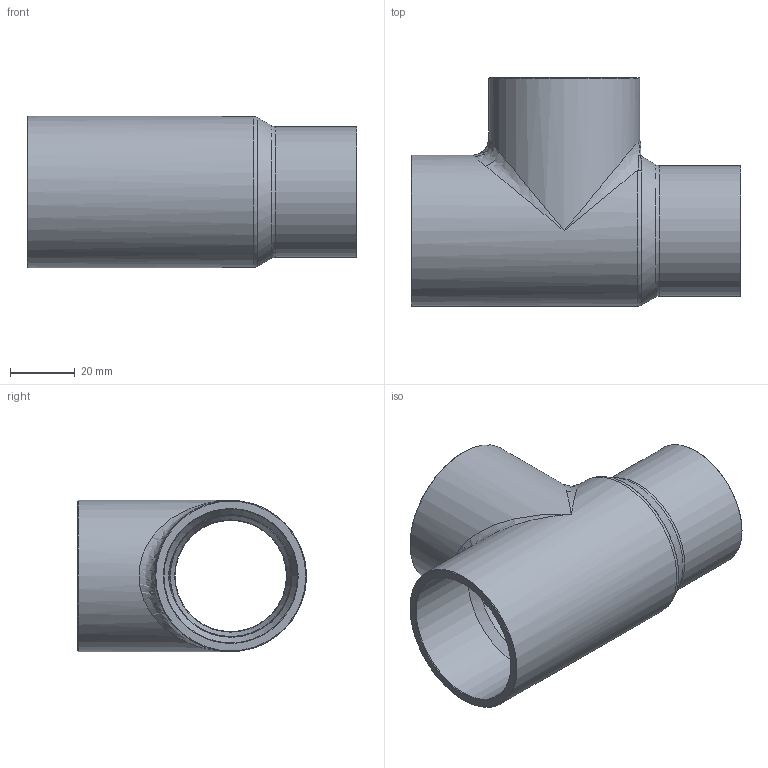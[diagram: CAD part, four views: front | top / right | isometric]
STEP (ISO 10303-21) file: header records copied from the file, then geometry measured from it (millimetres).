
FILE_DESCRIPTION((''),'2;1');
FILE_NAME('G:\SANHA-Ternat\Technik\Management\Bouwmaten + markeringen\z-maattekeningen 3D\29000s\29130158158138_3d.stp','2017-08-03T13:24:14',('vdvijverd'),(''),'Autodesk Inventor 2009','Autodesk Inventor 2009','');
FILE_SCHEMA(('AUTOMOTIVE_DESIGN { 1 0 10303 214 1 1 1 1 }'));
Length unit declared in the file: millimetre
Products named in the file (1): 29130158158138_3d
Bounding box: 102.3 x 70.95 x 46.9 mm (x, y, z)
Volume: 54245.1 mm3; surface area: 33459.6 mm2
Topology: 1 solids, 1 shells, 36 faces, 91 edges, 48 vertices
Faces by surface type: cone 10, cylinder 9, bspline 9, plane 4, torus 4
Full cylindrical faces by diameter (mm): 35.105 x1, 38 x1, 40.505 x1, 41.455 x2, 46.9 x2
Entity records: 2074 total; most frequent: CARTESIAN_POINT 1384, DIRECTION 144, ORIENTED_EDGE 106, AXIS2_PLACEMENT_3D 72, EDGE_LOOP 61, EDGE_CURVE 53, VERTEX_POINT 40, FACE_OUTER_BOUND 36
